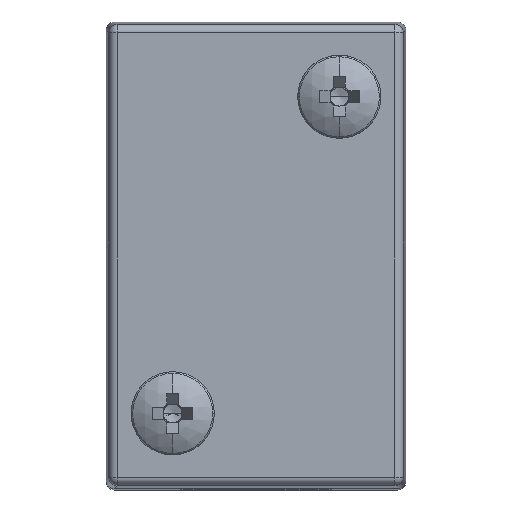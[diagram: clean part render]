
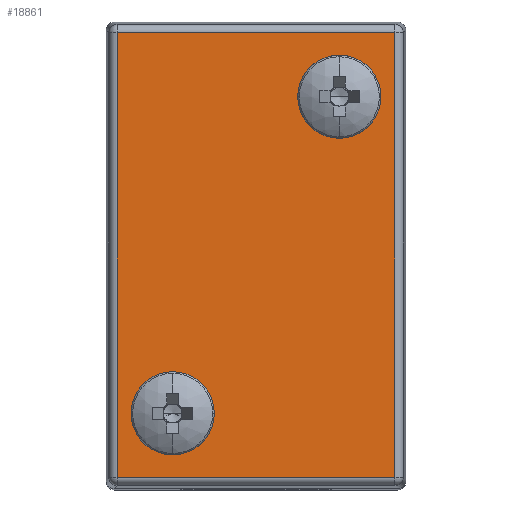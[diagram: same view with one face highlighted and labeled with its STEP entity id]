
A CAD part, top view. The second image highlights one B-rep face of the part: STEP entity #18861.
In plain terms, the highlighted planar face has unit normal (0, 0, 1).
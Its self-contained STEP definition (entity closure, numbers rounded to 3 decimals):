
#267 = EDGE_CURVE ( 'NONE', #290, #293, #3886, .T. ) ;
#290 = VERTEX_POINT ( 'NONE', #3981 ) ;
#293 = VERTEX_POINT ( 'NONE', #3975 ) ;
#1889 = VERTEX_POINT ( 'NONE', #6540 ) ;
#2788 = EDGE_CURVE ( 'NONE', #2870, #2789, #11183, .T. ) ;
#2789 = VERTEX_POINT ( 'NONE', #11178 ) ;
#2870 = VERTEX_POINT ( 'NONE', #11400 ) ;
#2900 = VERTEX_POINT ( 'NONE', #11407 ) ;
#2902 = EDGE_CURVE ( 'NONE', #2900, #2903, #11470, .T. ) ;
#2903 = VERTEX_POINT ( 'NONE', #11465 ) ;
#3886 = LINE ( 'NONE', #3951, #3950 ) ;
#3948 = DIRECTION ( 'NONE',  ( -1., 0., 0. ) ) ;
#3950 = VECTOR ( 'NONE', #3948, 1000. ) ;
#3951 = CARTESIAN_POINT ( 'NONE',  ( -8.825, 13.334, 34.5 ) ) ;
#3975 = CARTESIAN_POINT ( 'NONE',  ( -8.334, 13.334, 34.5 ) ) ;
#3981 = CARTESIAN_POINT ( 'NONE',  ( 8.334, 13.334, 34.5 ) ) ;
#6540 = CARTESIAN_POINT ( 'NONE',  ( -8.334, -13.334, 34.5 ) ) ;
#11178 = CARTESIAN_POINT ( 'NONE',  ( -2.5, -9.5, 34.5 ) ) ;
#11179 = DIRECTION ( 'NONE',  ( 1., 0., 0. ) ) ;
#11180 = DIRECTION ( 'NONE',  ( 0., 0., 1. ) ) ;
#11181 = CARTESIAN_POINT ( 'NONE',  ( -5., -9.5, 34.5 ) ) ;
#11182 = AXIS2_PLACEMENT_3D ( 'NONE', #11181, #11180, #11179 ) ;
#11183 = CIRCLE ( 'NONE', #11182, 2.5 ) ;
#11400 = CARTESIAN_POINT ( 'NONE',  ( -7.5, -9.5, 34.5 ) ) ;
#11407 = CARTESIAN_POINT ( 'NONE',  ( 2.5, 9.5, 34.5 ) ) ;
#11465 = CARTESIAN_POINT ( 'NONE',  ( 7.5, 9.5, 34.5 ) ) ;
#11466 = DIRECTION ( 'NONE',  ( 1., 0., 0. ) ) ;
#11467 = DIRECTION ( 'NONE',  ( 0., 0., 1. ) ) ;
#11468 = CARTESIAN_POINT ( 'NONE',  ( 5., 9.5, 34.5 ) ) ;
#11469 = AXIS2_PLACEMENT_3D ( 'NONE', #11468, #11467, #11466 ) ;
#11470 = CIRCLE ( 'NONE', #11469, 2.5 ) ;
#14877 = DIRECTION ( 'NONE',  ( 1., 0., 0. ) ) ;
#14878 = DIRECTION ( 'NONE',  ( 0., 0., 1. ) ) ;
#14879 = CARTESIAN_POINT ( 'NONE',  ( -9., -14., 34.5 ) ) ;
#14880 = AXIS2_PLACEMENT_3D ( 'NONE', #14879, #14878, #14877 ) ;
#14881 = PLANE ( 'NONE',  #14880 ) ;
#14882 = FACE_OUTER_BOUND ( 'NONE', #18956, .T. ) ;
#14883 = FACE_BOUND ( 'NONE', #19078, .T. ) ;
#14884 = FACE_BOUND ( 'NONE', #18757, .T. ) ;
#15135 = DIRECTION ( 'NONE',  ( 1., 0., 0. ) ) ;
#15136 = VECTOR ( 'NONE', #15135, 1000. ) ;
#15137 = CARTESIAN_POINT ( 'NONE',  ( 8.825, -13.334, 34.5 ) ) ;
#15138 = LINE ( 'NONE', #15137, #15136 ) ;
#15157 = DIRECTION ( 'NONE',  ( 1., 0., 0. ) ) ;
#15158 = DIRECTION ( 'NONE',  ( 0., 0., 1. ) ) ;
#15159 = CARTESIAN_POINT ( 'NONE',  ( -5., -9.5, 34.5 ) ) ;
#15160 = AXIS2_PLACEMENT_3D ( 'NONE', #15159, #15158, #15157 ) ;
#15161 = CIRCLE ( 'NONE', #15160, 2.5 ) ;
#15164 = DIRECTION ( 'NONE',  ( 1., 0., 0. ) ) ;
#15165 = DIRECTION ( 'NONE',  ( 0., 0., 1. ) ) ;
#15166 = CARTESIAN_POINT ( 'NONE',  ( 5., 9.5, 34.5 ) ) ;
#15167 = AXIS2_PLACEMENT_3D ( 'NONE', #15166, #15165, #15164 ) ;
#15168 = CIRCLE ( 'NONE', #15167, 2.5 ) ;
#15278 = DIRECTION ( 'NONE',  ( 0., 1., 0. ) ) ;
#15279 = VECTOR ( 'NONE', #15278, 1000. ) ;
#15280 = CARTESIAN_POINT ( 'NONE',  ( 8.334, 13.825, 34.5 ) ) ;
#15281 = LINE ( 'NONE', #15280, #15279 ) ;
#16250 = CARTESIAN_POINT ( 'NONE',  ( 8.334, -13.334, 34.5 ) ) ;
#16354 = DIRECTION ( 'NONE',  ( 0., -1., 0. ) ) ;
#16355 = VECTOR ( 'NONE', #16354, 1000. ) ;
#16356 = CARTESIAN_POINT ( 'NONE',  ( -8.334, -13.825, 34.5 ) ) ;
#16357 = LINE ( 'NONE', #16356, #16355 ) ;
#18757 = EDGE_LOOP ( 'NONE', ( #19071, #19077 ) ) ;
#18861 = ADVANCED_FACE ( 'NONE', ( #14884, #14883, #14882 ), #14881, .T. ) ;
#18943 = ORIENTED_EDGE ( 'NONE', *, *, #19787, .T. ) ;
#18946 = ORIENTED_EDGE ( 'NONE', *, *, #267, .T. ) ;
#18947 = ORIENTED_EDGE ( 'NONE', *, *, #19127, .T. ) ;
#18956 = EDGE_LOOP ( 'NONE', ( #18947, #18946, #18943, #19098 ) ) ;
#18967 = ORIENTED_EDGE ( 'NONE', *, *, #2902, .F. ) ;
#19044 = EDGE_CURVE ( 'NONE', #1889, #19737, #15138, .T. ) ;
#19066 = ORIENTED_EDGE ( 'NONE', *, *, #19070, .F. ) ;
#19070 = EDGE_CURVE ( 'NONE', #2903, #2900, #15168, .T. ) ;
#19071 = ORIENTED_EDGE ( 'NONE', *, *, #19076, .F. ) ;
#19076 = EDGE_CURVE ( 'NONE', #2789, #2870, #15161, .T. ) ;
#19077 = ORIENTED_EDGE ( 'NONE', *, *, #2788, .F. ) ;
#19078 = EDGE_LOOP ( 'NONE', ( #19066, #18967 ) ) ;
#19098 = ORIENTED_EDGE ( 'NONE', *, *, #19044, .T. ) ;
#19127 = EDGE_CURVE ( 'NONE', #19737, #290, #15281, .T. ) ;
#19737 = VERTEX_POINT ( 'NONE', #16250 ) ;
#19787 = EDGE_CURVE ( 'NONE', #293, #1889, #16357, .T. ) ;
